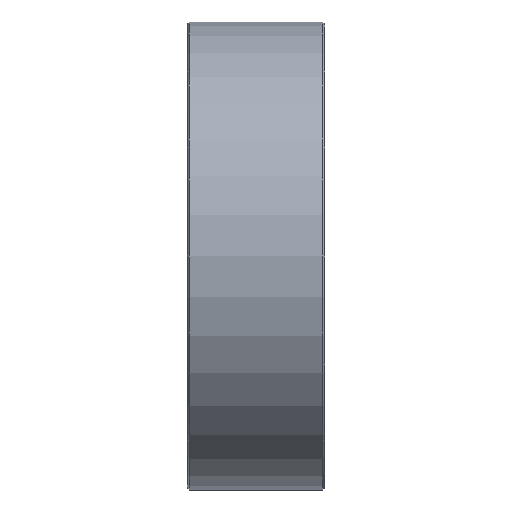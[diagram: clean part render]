
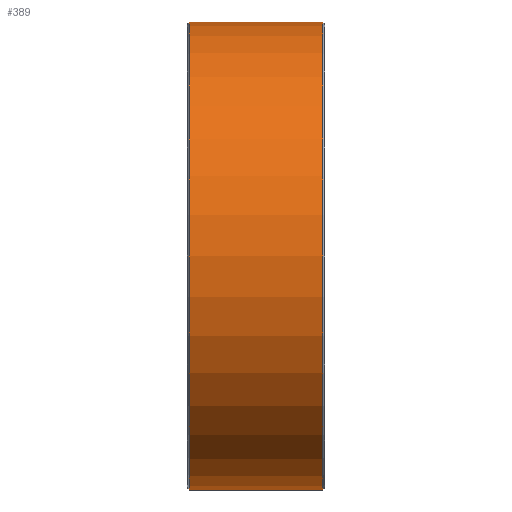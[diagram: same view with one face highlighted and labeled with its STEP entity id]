
A CAD part, left-side view. The second image highlights one B-rep face of the part: STEP entity #389.
In plain terms, the highlighted cylindrical face has radius 27.25 mm (diameter 54.5 mm), a partial arc.
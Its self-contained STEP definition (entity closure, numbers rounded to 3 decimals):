
#362 = DIRECTION ( 'NONE',  ( 0., 1., 0. ) ) ;
#389 = ADVANCED_FACE ( 'NONE', ( #3679 ), #3595, .T. ) ;
#410 = ORIENTED_EDGE ( 'NONE', *, *, #2948, .F. ) ;
#415 = ORIENTED_EDGE ( 'NONE', *, *, #5586, .T. ) ;
#739 = DIRECTION ( 'NONE',  ( 0., 0., -1. ) ) ;
#894 = CIRCLE ( 'NONE', #2408, 27.25 ) ;
#1185 = EDGE_CURVE ( 'NONE', #5125, #5639, #2982, .T. ) ;
#1301 = DIRECTION ( 'NONE',  ( 0., 1., 0. ) ) ;
#1341 = CARTESIAN_POINT ( 'NONE',  ( 0., -7.8, -27.25 ) ) ;
#1465 = AXIS2_PLACEMENT_3D ( 'NONE', #5044, #4607, #2901 ) ;
#1579 = LINE ( 'NONE', #2058, #4613 ) ;
#1869 = CARTESIAN_POINT ( 'NONE',  ( 0., 7.8, -27.25 ) ) ;
#2058 = CARTESIAN_POINT ( 'NONE',  ( 0., 8., -27.25 ) ) ;
#2156 = CARTESIAN_POINT ( 'NONE',  ( 0., -7.8, 0. ) ) ;
#2166 = CARTESIAN_POINT ( 'NONE',  ( 0., -7.8, 27.25 ) ) ;
#2230 = ORIENTED_EDGE ( 'NONE', *, *, #2243, .T. ) ;
#2243 = EDGE_CURVE ( 'NONE', #3174, #4167, #894, .T. ) ;
#2408 = AXIS2_PLACEMENT_3D ( 'NONE', #2156, #3474, #739 ) ;
#2468 = CARTESIAN_POINT ( 'NONE',  ( 0., 7.8, 27.25 ) ) ;
#2901 = DIRECTION ( 'NONE',  ( 0., 0., 1. ) ) ;
#2948 = EDGE_CURVE ( 'NONE', #3174, #5639, #1579, .T. ) ;
#2982 = CIRCLE ( 'NONE', #5824, 27.25 ) ;
#3044 = LINE ( 'NONE', #5329, #4880 ) ;
#3174 = VERTEX_POINT ( 'NONE', #1341 ) ;
#3474 = DIRECTION ( 'NONE',  ( 0., 1., 0. ) ) ;
#3595 = CYLINDRICAL_SURFACE ( 'NONE', #1465, 27.25 ) ;
#3679 = FACE_OUTER_BOUND ( 'NONE', #4716, .T. ) ;
#3824 = DIRECTION ( 'NONE',  ( 0., -1., 0. ) ) ;
#4167 = VERTEX_POINT ( 'NONE', #2166 ) ;
#4607 = DIRECTION ( 'NONE',  ( 0., 1., 0. ) ) ;
#4613 = VECTOR ( 'NONE', #1301, 1000. ) ;
#4716 = EDGE_LOOP ( 'NONE', ( #410, #2230, #415, #5015 ) ) ;
#4778 = DIRECTION ( 'NONE',  ( 0., 0., -1. ) ) ;
#4809 = CARTESIAN_POINT ( 'NONE',  ( 0., 7.8, 0. ) ) ;
#4880 = VECTOR ( 'NONE', #362, 1000. ) ;
#5015 = ORIENTED_EDGE ( 'NONE', *, *, #1185, .T. ) ;
#5044 = CARTESIAN_POINT ( 'NONE',  ( 0., 8., 0. ) ) ;
#5125 = VERTEX_POINT ( 'NONE', #2468 ) ;
#5329 = CARTESIAN_POINT ( 'NONE',  ( 0., 8., 27.25 ) ) ;
#5586 = EDGE_CURVE ( 'NONE', #4167, #5125, #3044, .T. ) ;
#5639 = VERTEX_POINT ( 'NONE', #1869 ) ;
#5824 = AXIS2_PLACEMENT_3D ( 'NONE', #4809, #3824, #4778 ) ;
